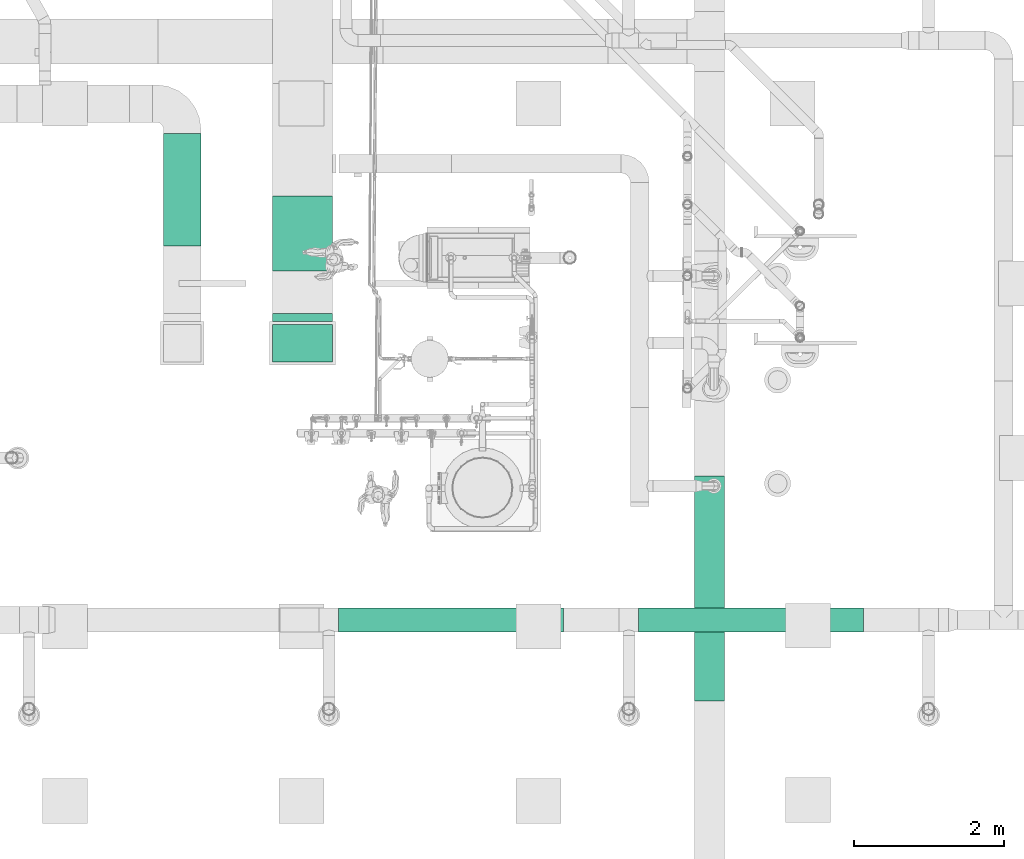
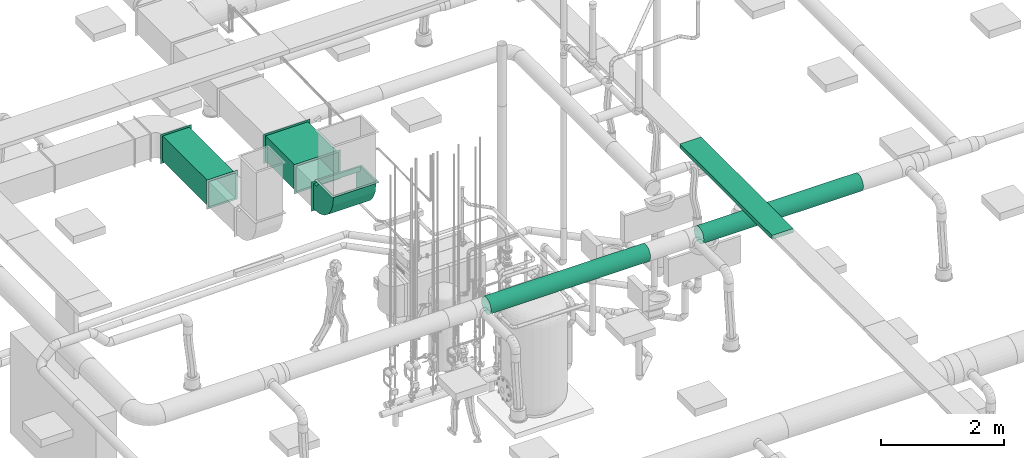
# One storey, part 7 of 374: 4 flow segments, 1 distribution element, 1 flow fitting.
"""IFC2X3 building model written with IfcOpenShell, lengths in metres."""

from ifc_helpers import new_model, si_unit, direction, frame, frame_2d, origin, place, context, subcontext, project, spatial, rectangle, extrude, open_shell, surface_model, source, transform, mapped, element, save


model = new_model("IFC2X3")

# Units and contexts
model_context = context("Model", 3, precision=1e-05, world=origin(), true_north=direction((-0.4480736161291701, 0.8939966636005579)))
body_context = subcontext(model_context, "Body", "Model", "MODEL_VIEW")
ifc_project = project(units=[si_unit("LENGTHUNIT", "METRE"), si_unit("AREAUNIT", "SQUARE_METRE"), si_unit("VOLUMEUNIT", "CUBIC_METRE"), si_unit("PLANEANGLEUNIT", "RADIAN"), si_unit("THERMODYNAMICTEMPERATUREUNIT", "KELVIN"), si_unit("MASSUNIT", "GRAM", prefix="KILO"), si_unit("TIMEUNIT", "SECOND")], contexts=[model_context])

# Site, building, storey
site_placement = place(None, origin())
site = spatial("IfcSite", under=ifc_project, at=site_placement, Name="Site 1", CompositionType="ELEMENT")
building_placement = place(site_placement, origin())
building = spatial("IfcBuilding", under=site, at=building_placement, Name="Undefined", CompositionType="ELEMENT")
storey_placement = place(building_placement, origin())
storey = spatial("IfcBuildingStorey", under=building, at=storey_placement, Name="Rez de chauss\x8ee", CompositionType="ELEMENT", Elevation=0.0)

# Flow segments
shared_shape_1 = source(origin(), body_context, "Body", "SurfaceModel", [
    surface_model("IfcFaceBasedSurfaceModel", [(0.0, 0.0, 0.0), (0.5800000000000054, 0.0, 0.0), (0.5400000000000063, 0.040000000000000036, 0.0), (0.04000000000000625, 0.040000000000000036, 0.0), (0.5800000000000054, 0.5800000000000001, 0.0), (0.5400000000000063, 0.54, 0.0), (0.0, 0.5800000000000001, 0.0), (0.04000000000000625, 0.54, 0.0), (0.0, 0.0, -1.4939999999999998), (0.5800000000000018, 0.0, -1.4939999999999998), (0.5399999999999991, 0.040000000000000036, -1.4939999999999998), (0.03999999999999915, 0.040000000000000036, -1.4939999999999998), (0.5800000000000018, 0.5800000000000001, -1.4939999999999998), (0.5399999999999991, 0.54, -1.4939999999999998), (0.0, 0.5800000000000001, -1.4939999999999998), (0.03999999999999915, 0.54, -1.4939999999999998), (0.04000000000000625, 0.54, 0.0030000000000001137), (0.03999999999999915, 0.54, -1.4969999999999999), (0.03999999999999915, 0.040000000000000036, -1.4969999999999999), (0.04000000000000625, 0.040000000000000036, 0.0030000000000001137), (0.5399999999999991, 0.040000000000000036, -1.4969999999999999), (0.5400000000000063, 0.040000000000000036, 0.0030000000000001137), (0.5399999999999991, 0.54, -1.4969999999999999), (0.5400000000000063, 0.54, 0.0030000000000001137)], [open_shell([[[0, 1, 2, 3]], [[1, 4, 5, 2]], [[6, 4, 5, 7]], [[0, 6, 7, 3]], [[8, 9, 10, 11]], [[9, 12, 13, 10]], [[14, 12, 13, 15]], [[8, 14, 15, 11]], [[16, 17, 18, 19]], [[19, 18, 20, 21]], [[21, 20, 22, 23]], [[23, 22, 17, 16]]])]),
])
flow_segment_1_placement = place(storey_placement, origin())
element("IfcFlowSegment", 1, at=flow_segment_1_placement, inside=storey, Name="Gaine de ventilation", ObjectType="Gaine de ventilation", context=body_context, shape_type="MappedRepresentation", body=[
    mapped(shared_shape_1, transform((50.62499663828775, 14.710573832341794, 3.5100000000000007), x_axis=(-1.0, 0.0, 0.0), y_axis=(0.0, 0.0, 1.0), z_axis=(0.0, 1.0, 0.0))),
])
shared_shape_2 = source(origin(), body_context, "Body", "SurfaceModel", [
    surface_model("IfcFaceBasedSurfaceModel", [(0.0, 0.04111575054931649, 0.0), (0.0, 0.0, 0.0), (3.0, 0.0, 0.0), (3.0, 0.04111575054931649, 0.0), (0.0, -0.03971476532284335, -0.010641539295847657), (3.0, -0.03971476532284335, -0.010641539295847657), (0.0, -0.0753220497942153, -0.0311994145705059), (3.0, -0.0753220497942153, -0.0311994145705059), (0.0, -0.10439527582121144, -0.060272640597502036), (3.0, -0.10439527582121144, -0.060272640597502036), (0.0, -0.12495315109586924, -0.09587992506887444), (3.0, -0.12495315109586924, -0.09587992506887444), (0.0, -0.13559469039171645, -0.13559469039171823), (3.0, -0.13559469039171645, -0.13559469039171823), (0.0, -0.135594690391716, -0.17671044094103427), (3.0, -0.135594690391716, -0.17671044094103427), (0.0, -0.1249531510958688, -0.21642520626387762), (3.0, -0.1249531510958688, -0.21642520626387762), (0.0, -0.10439527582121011, -0.2520324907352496), (3.0, -0.10439527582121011, -0.2520324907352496), (0.0, -0.07532204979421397, -0.2811057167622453), (3.0, -0.07532204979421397, -0.2811057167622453), (0.0, -0.039714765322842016, -0.3016635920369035), (3.0, -0.039714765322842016, -0.3016635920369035), (0.0, 1.776356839e-15, -0.3123051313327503), (3.0, 1.776356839e-15, -0.3123051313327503), (0.0, 0.041115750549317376, -0.31230513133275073), (3.0, 0.041115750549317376, -0.31230513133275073), (0.0, 0.08083051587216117, -0.30166359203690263), (3.0, 0.08083051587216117, -0.30166359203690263), (0.0, 0.11643780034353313, -0.28110571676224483), (3.0, 0.11643780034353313, -0.28110571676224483), (0.0, 0.14551102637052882, -0.25203249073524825), (3.0, 0.14551102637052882, -0.25203249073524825), (0.0, 0.16606890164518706, -0.2164252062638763), (3.0, 0.16606890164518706, -0.2164252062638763), (0.0, 0.17671044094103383, -0.1767104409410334), (3.0, 0.17671044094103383, -0.1767104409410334), (0.0, 0.17671044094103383, -0.1355946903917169), (3.0, 0.17671044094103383, -0.1355946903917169), (0.0, 0.16606890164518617, -0.09587992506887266), (3.0, 0.16606890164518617, -0.09587992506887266), (0.0, 0.14551102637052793, -0.06027264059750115), (3.0, 0.14551102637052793, -0.06027264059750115), (0.0, 0.1164378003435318, -0.031199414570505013), (3.0, 0.1164378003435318, -0.031199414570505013), (0.0, 0.08083051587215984, -0.010641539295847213), (3.0, 0.08083051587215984, -0.010641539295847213)], [open_shell([[[0, 1, 2, 3]], [[1, 4, 5, 2]], [[4, 6, 7, 5]], [[6, 8, 9, 7]], [[8, 10, 11, 9]], [[10, 12, 13, 11]], [[12, 14, 15, 13]], [[14, 16, 17, 15]], [[16, 18, 19, 17]], [[18, 20, 21, 19]], [[20, 22, 23, 21]], [[22, 24, 25, 23]], [[24, 26, 27, 25]], [[26, 28, 29, 27]], [[28, 30, 31, 29]], [[30, 32, 33, 31]], [[32, 34, 35, 33]], [[34, 36, 37, 35]], [[36, 38, 39, 37]], [[38, 40, 41, 39]], [[40, 42, 43, 41]], [[42, 44, 45, 43]], [[44, 46, 47, 45]], [[46, 0, 3, 47]]])]),
])
flow_segment_2_placement = place(storey_placement, origin())
element("IfcFlowSegment", 2, at=flow_segment_2_placement, inside=storey, Name="Tube", ObjectType="Tube", context=body_context, shape_type="MappedRepresentation", body=[
    mapped(shared_shape_2, transform((52.42000370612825, 8.18423579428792, 3.952133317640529), x_axis=(1.0, 0.0, 0.0), y_axis=(0.0, 0.9914448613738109, 0.1305261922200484), z_axis=(0.0, -0.1305261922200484, 0.9914448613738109))),
])
flow_segment_3_placement = place(storey_placement, origin())
element("IfcFlowSegment", 3, at=flow_segment_3_placement, inside=storey, Name="Tube", ObjectType="Tube", context=body_context, shape_type="MappedRepresentation", body=[
    mapped(shared_shape_2, transform((56.42000379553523, 8.18423579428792, 3.952133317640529), x_axis=(1.0, 0.0, 0.0), y_axis=(0.0, 0.9914448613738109, 0.1305261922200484), z_axis=(0.0, -0.1305261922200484, 0.9914448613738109))),
])

# Flow fitting
shared_shape_3 = source(origin(), body_context, "Body", "SurfaceModel", [
    surface_model("IfcFaceBasedSurfaceModel", [(0.0, 0.0, 0.0), (0.5800000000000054, 0.0, 0.0), (0.5400000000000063, 0.040000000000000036, 0.0), (0.04000000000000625, 0.040000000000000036, 0.0), (0.5800000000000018, 0.8799999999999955, 0.0), (0.5400000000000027, 0.8399999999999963, 0.0), (1.776356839e-15, 0.8799999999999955, 0.0), (0.0400000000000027, 0.8399999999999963, 0.0), (0.6870000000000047, 0.0, -0.6870000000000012), (0.6870000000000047, 0.0, -0.10699999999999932), (0.6870000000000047, 0.040000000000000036, -0.14700000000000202), (0.6870000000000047, 0.040000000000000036, -0.647000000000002), (0.6870000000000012, 0.8799999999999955, -0.1070000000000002), (0.6870000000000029, 0.8399999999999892, -0.14700000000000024), (0.6870000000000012, 0.8799999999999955, -0.6870000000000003), (0.6870000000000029, 0.8399999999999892, -0.6470000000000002), (0.0400000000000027, 0.8399999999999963, -0.04700000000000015), (0.060444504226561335, 0.8399999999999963, -0.20229142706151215), (0.06044450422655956, 0.040000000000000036, -0.20229142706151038), (0.04000000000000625, 0.040000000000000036, -0.0470000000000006), (0.12038475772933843, 0.8399999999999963, -0.347), (0.12038475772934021, 0.040000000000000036, -0.3470000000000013), (0.2157359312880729, 0.8399999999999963, -0.4712640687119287), (0.2157359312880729, 0.040000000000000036, -0.4712640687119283), (0.34000000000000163, 0.8399999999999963, -0.5666152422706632), (0.3400000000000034, 0.040000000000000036, -0.566615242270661), (0.484708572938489, 0.8399999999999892, -0.6265554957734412), (0.48470857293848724, 0.040000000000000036, -0.6265554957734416), (0.6400000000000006, 0.8399999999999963, -0.6470000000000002), (0.6400000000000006, 0.040000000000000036, -0.647000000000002), (0.04000000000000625, 0.040000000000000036, 0.0030000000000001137), (0.0400000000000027, 0.8399999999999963, 0.0029999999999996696), (0.5400000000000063, 0.040000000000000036, 0.0030000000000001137), (0.5400000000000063, 0.040000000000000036, -0.0470000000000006), (0.5400000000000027, 0.8399999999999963, -0.04700000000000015), (0.5400000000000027, 0.8399999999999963, 0.0029999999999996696), (0.6400000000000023, 0.8399999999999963, -0.14700000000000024), (0.6141180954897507, 0.8399999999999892, -0.14359258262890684), (0.6141180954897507, 0.040000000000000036, -0.14359258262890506), (0.6400000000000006, 0.040000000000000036, -0.14700000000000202), (0.5900000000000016, 0.8399999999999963, -0.133602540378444), (0.5900000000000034, 0.040000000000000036, -0.133602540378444), (0.5692893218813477, 0.8399999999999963, -0.11771067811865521), (0.5692893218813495, 0.040000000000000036, -0.11771067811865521), (0.5533974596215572, 0.8399999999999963, -0.09700000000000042), (0.5533974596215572, 0.040000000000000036, -0.09700000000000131), (0.5434074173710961, 0.8399999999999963, -0.07288190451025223), (0.5434074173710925, 0.040000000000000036, -0.072881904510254), (0.6900000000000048, 0.040000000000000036, -0.14700000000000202), (0.690000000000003, 0.8399999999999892, -0.14700000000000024), (0.6900000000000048, 0.040000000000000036, -0.647000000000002), (0.690000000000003, 0.8399999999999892, -0.6470000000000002)], [open_shell([[[0, 1, 2, 3]], [[1, 4, 5, 2]], [[6, 4, 5, 7]], [[0, 6, 7, 3]], [[8, 9, 10, 11]], [[9, 12, 13, 10]], [[14, 12, 13, 15]], [[8, 14, 15, 11]], [[16, 17, 18, 19]], [[17, 20, 21, 18]], [[20, 22, 23, 21]], [[22, 24, 25, 23]], [[24, 26, 27, 25]], [[26, 28, 29, 27]], [[19, 30, 31, 16]], [[32, 33, 34, 35]], [[36, 37, 38, 39]], [[37, 40, 41, 38]], [[40, 42, 43, 41]], [[42, 44, 45, 43]], [[44, 46, 47, 45]], [[46, 34, 33, 47]], [[39, 48, 49, 36]], [[50, 29, 28, 51]], [[17, 16, 46]], [[17, 46, 44]], [[17, 44, 42]], [[17, 42, 40]], [[17, 40, 37]], [[17, 37, 36]], [[17, 36, 51]], [[17, 51, 20]], [[34, 46, 16]], [[34, 16, 31]], [[34, 31, 35]], [[51, 28, 26]], [[51, 26, 24]], [[51, 24, 22]], [[51, 22, 20]], [[51, 36, 49]], [[47, 19, 18]], [[45, 47, 18]], [[43, 45, 18]], [[41, 43, 18]], [[38, 41, 18]], [[39, 38, 18]], [[50, 39, 18]], [[21, 50, 18]], [[19, 47, 33]], [[30, 19, 33]], [[32, 30, 33]], [[27, 29, 50]], [[25, 27, 50]], [[23, 25, 50]], [[21, 23, 50]], [[48, 39, 50]]])]),
])
flow_fitting_placement = place(storey_placement, origin())
element("IfcFlowFitting", 4, at=flow_fitting_placement, inside=storey, Name="Coude symétrique", ObjectType="Coude symétrique", context=body_context, shape_type="MappedRepresentation", body=[
    mapped(shared_shape_3, transform((51.49499507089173, 12.311000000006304, 3.5100000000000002), x_axis=(0.0, 0.0, 1.0), y_axis=(1.0, 0.0, 0.0), z_axis=(0.0, 1.0, 0.0))),
])

# Flow segment
shared_shape_4 = source(origin(), body_context, "Body", "SurfaceModel", [
    surface_model("IfcFaceBasedSurfaceModel", [(0.0, 0.0, 0.0), (0.8800000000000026, 0.0, 0.0), (0.8400000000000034, 0.040000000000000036, -7.105427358e-15), (0.04000000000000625, 0.040000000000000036, 0.0), (0.8800000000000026, 0.5800000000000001, -2.842170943e-14), (0.8400000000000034, 0.54, -2.842170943e-14), (0.0, 0.5800000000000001, 0.0), (0.04000000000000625, 0.54, 0.0), (0.0, 0.0, -0.9939999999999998), (0.8799999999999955, -3.9968028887e-14, -0.9939999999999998), (0.8399999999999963, 0.03999999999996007, -0.9940000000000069), (0.03999999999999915, 0.040000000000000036, -0.9939999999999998), (0.8799999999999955, 0.5799999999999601, -0.9940000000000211), (0.8399999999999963, 0.5399999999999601, -0.9940000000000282), (0.0, 0.5800000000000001, -0.9939999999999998), (0.03999999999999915, 0.54, -0.9939999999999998), (0.04000000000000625, 0.54, 0.0030000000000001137), (0.03999999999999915, 0.54, -0.9969999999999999), (0.03999999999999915, 0.040000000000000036, -0.9969999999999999), (0.04000000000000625, 0.040000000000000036, 0.0030000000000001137), (0.8399999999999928, 0.03999999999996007, -0.997000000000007), (0.8400000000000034, 0.040000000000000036, 0.0029999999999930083), (0.8399999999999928, 0.5399999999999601, -0.9970000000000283), (0.8400000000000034, 0.54, 0.002999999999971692)], [open_shell([[[0, 1, 2, 3]], [[1, 4, 5, 2]], [[6, 4, 5, 7]], [[0, 6, 7, 3]], [[8, 9, 10, 11]], [[9, 12, 13, 10]], [[14, 12, 13, 15]], [[8, 14, 15, 11]], [[16, 17, 18, 19]], [[19, 18, 20, 21]], [[21, 20, 22, 23]], [[23, 22, 17, 16]]])]),
])
flow_segment_4_placement = place(storey_placement, origin())
element("IfcFlowSegment", 5, at=flow_segment_4_placement, inside=storey, Name="Gaine de ventilation", ObjectType="Gaine de ventilation", context=body_context, shape_type="MappedRepresentation", body=[
    mapped(shared_shape_4, transform((51.49499507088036, 13.876596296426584, 4.090000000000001), x_axis=(1.0, 0.0, 0.0), y_axis=(0.0, 0.0, -1.0), z_axis=(0.0, 1.0, 0.0))),
])

# Distribution element
distribution_element_placement = place(storey_placement, origin())
element("IfcDistributionElement", 6, at=distribution_element_placement, inside=storey, Name="Chemin(s) de câbles", ObjectType="Chemin(s) de câbles", context=body_context, shape_type="SweptSolid", body=[
    extrude(rectangle(XDim=0.4, YDim=0.08, at=frame_2d((3.552713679e-15, 0.0), x_axis=(-1.0, 0.0))), frame((57.36899699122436, 10.143616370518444, 4.14), z_axis=(0.0, -1.0, 0.0), x_axis=(1.0, 0.0, 0.0)), (0.0, 0.0, 1.0), 3.0),
])

save(model, "model.ifc")
